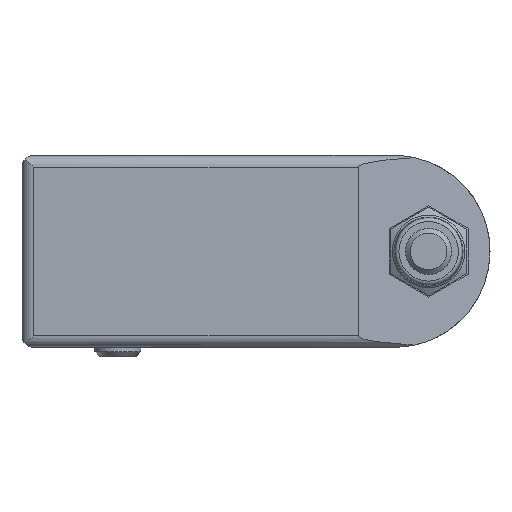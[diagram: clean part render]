
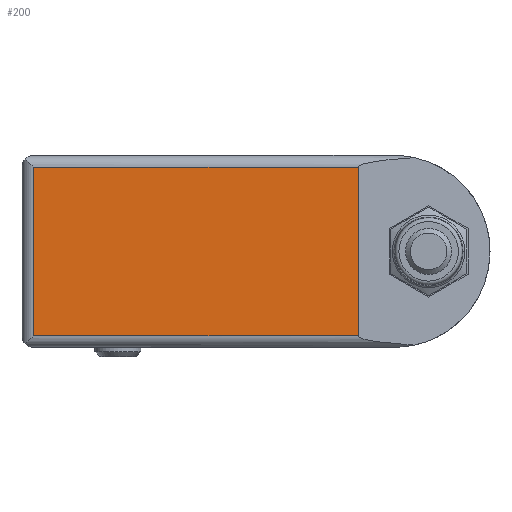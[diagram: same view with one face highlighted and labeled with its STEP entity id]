
A CAD part, front view. The second image highlights one B-rep face of the part: STEP entity #200.
In plain terms, the highlighted planar face has unit normal (0, -1, 0).
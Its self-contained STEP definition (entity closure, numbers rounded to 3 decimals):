
#200 = ADVANCED_FACE( '', ( #523 ), #524, .F. );
#523 = FACE_OUTER_BOUND( '', #871, .T. );
#524 = PLANE( '', #872 );
#871 = EDGE_LOOP( '', ( #1783, #1784, #1785, #1786 ) );
#872 = AXIS2_PLACEMENT_3D( '', #1787, #1788, #1789 );
#1783 = ORIENTED_EDGE( '', *, *, #2234, .T. );
#1784 = ORIENTED_EDGE( '', *, *, #1970, .F. );
#1785 = ORIENTED_EDGE( '', *, *, #2194, .F. );
#1786 = ORIENTED_EDGE( '', *, *, #2238, .T. );
#1787 = CARTESIAN_POINT( '', ( 1.5, 0., 12.5 ) );
#1788 = DIRECTION( '', ( 0., 1., 0. ) );
#1789 = DIRECTION( '', ( 0., 0., 1. ) );
#1970 = EDGE_CURVE( '', #2286, #2287, #2288, .T. );
#2194 = EDGE_CURVE( '', #2680, #2286, #2681, .T. );
#2234 = EDGE_CURVE( '', #2745, #2287, #2746, .T. );
#2238 = EDGE_CURVE( '', #2680, #2745, #2752, .T. );
#2286 = VERTEX_POINT( '', #2934 );
#2287 = VERTEX_POINT( '', #2935 );
#2288 = LINE( '', #2936, #2937 );
#2680 = VERTEX_POINT( '', #3606 );
#2681 = LINE( '', #3607, #3608 );
#2745 = VERTEX_POINT( '', #3701 );
#2746 = LINE( '', #3702, #3703 );
#2752 = LINE( '', #3710, #3711 );
#2934 = CARTESIAN_POINT( '', ( 43.85, 0., -11. ) );
#2935 = CARTESIAN_POINT( '', ( 1.5, 0., -11. ) );
#2936 = CARTESIAN_POINT( '', ( 61., 0., -11. ) );
#2937 = VECTOR( '', #3788, 1000. );
#3606 = CARTESIAN_POINT( '', ( 43.85, 0., 11. ) );
#3607 = CARTESIAN_POINT( '', ( 43.85, 0., 12.5 ) );
#3608 = VECTOR( '', #4095, 1000. );
#3701 = CARTESIAN_POINT( '', ( 1.5, 0., 11. ) );
#3702 = CARTESIAN_POINT( '', ( 1.5, 0., 12.5 ) );
#3703 = VECTOR( '', #4155, 1000. );
#3710 = CARTESIAN_POINT( '', ( 61., 0., 11. ) );
#3711 = VECTOR( '', #4163, 1000. );
#3788 = DIRECTION( '', ( -1., 0., 0. ) );
#4095 = DIRECTION( '', ( 0., 0., -1. ) );
#4155 = DIRECTION( '', ( 0., 0., -1. ) );
#4163 = DIRECTION( '', ( -1., 0., 0. ) );
